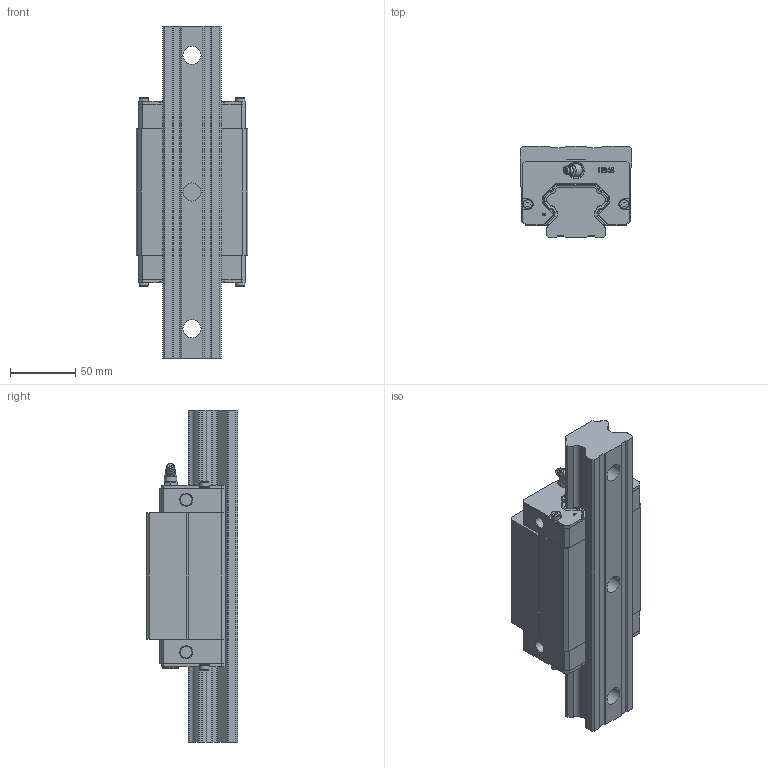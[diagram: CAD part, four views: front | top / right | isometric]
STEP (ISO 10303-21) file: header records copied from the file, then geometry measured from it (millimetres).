
FILE_DESCRIPTION(/* description */ (''),/* implementation_level */ '2;1');
FILE_NAME(/* name */ 'HBH45CA.stp',/* time_stamp */ '2024-09-29T20:50:54+08:00',/* author */ (''),/* organization */ (''),/* preprocessor_version */ 'ST-DEVELOPER v16.7',/* originating_system */ 'SIEMENS PLM Software NX 12.0',/* authorisation */ '');
FILE_SCHEMA (('AUTOMOTIVE_DESIGN { 1 0 10303 214 3 1 1 1 }'));
Products named in the file (3): HBH45CA; HBR45; HBH45CA_stp
Assembly tree (2 placements, depth 2):
  HBH45CA_stp
    HBR45
    HBH45CA
Bounding box: 86 x 70 x 255 mm (x, y, z)
Volume: 853483.1 mm3; surface area: 126166.8 mm2
Topology: 2 solids, 8 shells, 969 faces, 2549 edges, 1661 vertices
Faces by surface type: plane 582, cylinder 178, extrusion 97, cone 49, bspline 38, torus 22, sphere 3
Full cylindrical faces by diameter (mm): 3 x1, 4.4 x4, 6.6 x1, 7 x4, 8.5 x40, 9 x4, 9.5 x1, 10.003 x2, 10.1 x2, 12 x1, 12.5 x2
Entity records: 69723 total; most frequent: CARTESIAN_POINT 41614, ORIENTED_EDGE 4662, DIRECTION 3919, EDGE_CURVE 2331, VECTOR 1647, LINE 1550, VERTEX_POINT 1549, AXIS2_PLACEMENT_3D 1136
